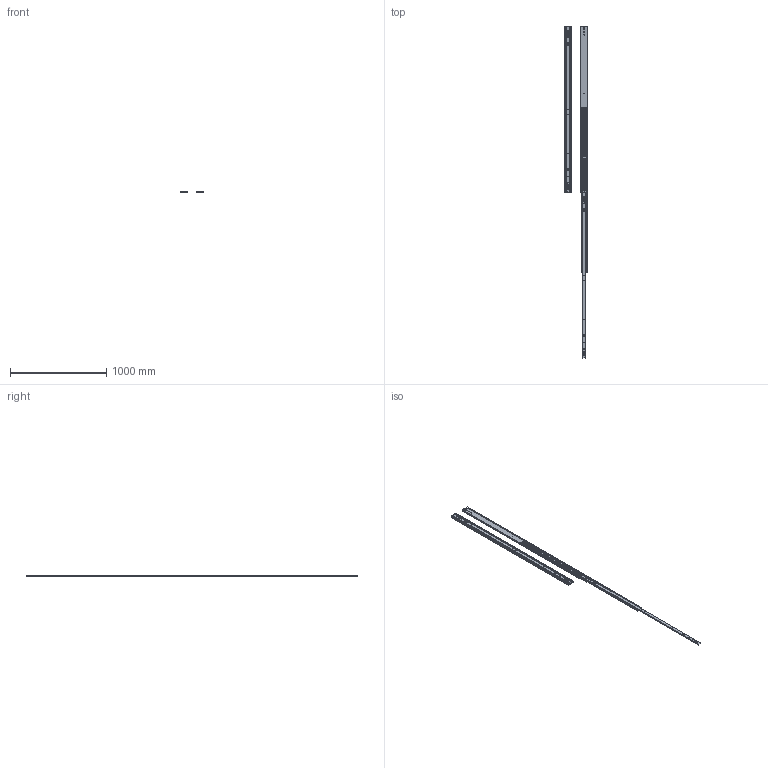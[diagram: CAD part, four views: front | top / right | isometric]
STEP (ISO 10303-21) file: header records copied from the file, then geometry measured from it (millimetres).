
FILE_DESCRIPTION((''),'2;1');
FILE_NAME('ASSEM1_1_2_ASM','2026-04-08T10:33:22',('T260078'),(''),'CREO PARAMETRIC BY PTC INC, 2025123','CREO PARAMETRIC BY PTC INC, 2025123','');
FILE_SCHEMA(('CONFIG_CONTROL_DESIGN','SHAPE_APPEARANCE_LAYERS_GROUPS'));
Length unit declared in the file: millimetre
Products named in the file (6): 76J01-68_X2_540B_X0_-M; 76J01-68_X2_540B_X0_-I; 76J01-68_X2_540B_X0_-O; 76J01-68_X2_540_X0__ASM; 76J01-68_X2_540B_X0_-_X2_5C5595_ASM; ASSEM1_1_2_ASM
Assembly tree (8 placements, depth 3):
  ASSEM1_1_2_ASM
    76J01-68_X2_540_X0__ASM
      76J01-68_X2_540B_X0_-M
      76J01-68_X2_540B_X0_-I
      76J01-68_X2_540B_X0_-O
    76J01-68_X2_540B_X0_-_X2_5C5595_ASM
      76J01-68_X2_540B_X0_-M
      76J01-68_X2_540B_X0_-I
      76J01-68_X2_540B_X0_-O
Bounding box: 245.44 x 3454.4 x 19.3 mm (x, y, z)
Volume: 2145874.4 mm3; surface area: 1909641.6 mm2
Topology: 6 solids, 6 shells, 380 faces, 1228 edges, 848 vertices
Faces by surface type: cylinder 212, plane 168
Entity records: 8394 total; most frequent: CARTESIAN_POINT 1339, DIRECTION 1244, ORIENTED_EDGE 1228, EDGE_CURVE 614, AXIS2_PLACEMENT_3D 444, VERTEX_POINT 424, VECTOR 356, LINE 356
